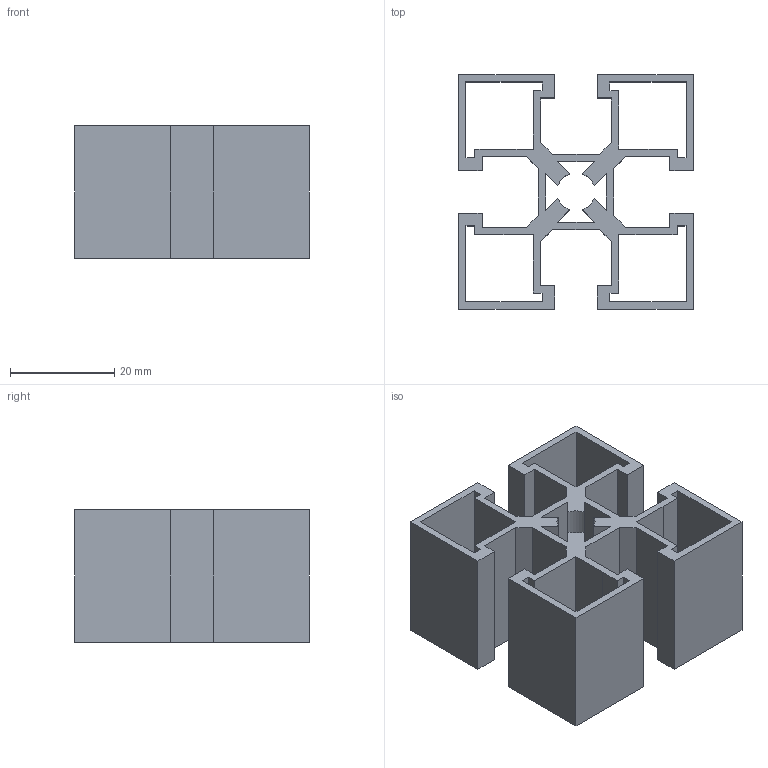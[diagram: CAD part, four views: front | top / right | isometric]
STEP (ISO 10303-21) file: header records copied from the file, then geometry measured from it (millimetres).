
FILE_DESCRIPTION((''),'2;1');
FILE_NAME('C:\Documents and Settings\Administrator\My Documents\Andys Backup Data\ANDY''S INVENTOR\INVENTOR LIBRARIES\MINITEC INVENTOR LIBRARIES\ALUMINUM PROFILES\20.1063 45X45 UL.stp','2008-10-20T15:05:12',('Administrator'),(''),'Autodesk Inventor 2009','Autodesk Inventor 2009','');
FILE_SCHEMA(('AUTOMOTIVE_DESIGN { 1 0 10303 214 1 1 1 1 }'));
Length unit declared in the file: inch
Products named in the file (1): 20.1063 45X45 UL
Bounding box: 45 x 45 x 25.4 mm (x, y, z)
Volume: 13647.2 mm3; surface area: 17242.8 mm2
Topology: 1 solids, 1 shells, 98 faces, 288 edges, 192 vertices
Faces by surface type: plane 94, cylinder 4
Entity records: 3248 total; most frequent: CARTESIAN_POINT 579, ORIENTED_EDGE 576, DIRECTION 494, EDGE_CURVE 288, VECTOR 280, LINE 280, VERTEX_POINT 192, EDGE_LOOP 108
